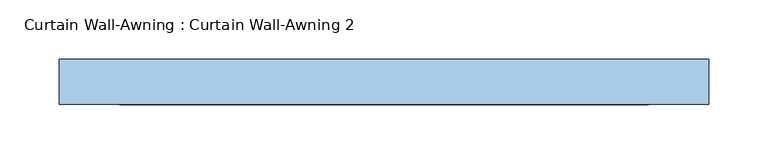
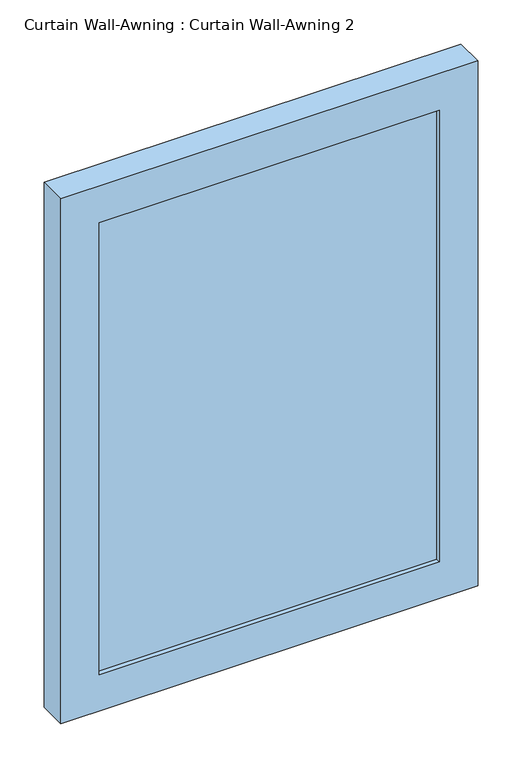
"""IFC4 building model written with IfcOpenShell, lengths in millimetres: window geometry, Curtain Wall-Awning : Curtain Wall-Awning 2."""

from ifc_helpers import new_model, si_unit, frame, origin, place, context, project, spatial, polyline, outline, extrude, source, transform, mapped, element, save


def curtain_wall_awning_curtain_wall_awning_2_2b56300f(model_context):
    return source(origin(), model_context, "Body", "SweptSolid", [
        extrude(outline(polyline([(223.060778, 19.05), (223.060778, 6.35), (-223.060778, 6.35), (-223.060778, 19.05), (223.060778, 19.05)])), frame((0.0, 0.0, 50.8), z_axis=(0.0, 0.0, 1.0), x_axis=(1.0, 0.0, 0.0)), (0.0, 0.0, 1.0), 626.7580049),
        extrude(outline(polyline([(728.3580049, -273.860778), (0.0, -273.860778), (0.0, 273.860778), (728.3580049, 273.860778), (728.3580049, -273.860778)]), holes=[polyline([(677.5580049, -223.060778), (677.5580049, 223.060778), (50.8, 223.060778), (50.8, -223.060778), (677.5580049, -223.060778)])]), frame((0.0, 0.0, 0.0), z_axis=(0.0, 1.0, 0.0), x_axis=(0.0, 0.0, 1.0)), (0.0, 0.0, 1.0), 38.1),
    ])


if __name__ == "__main__":
    model = new_model("IFC4")
    model_context = context("Model", 3, world=origin())
    ifc_project = project(units=[si_unit("LENGTHUNIT", "METRE", prefix="MILLI")], contexts=[model_context])
    site = spatial("IfcSite", under=ifc_project)
    building = spatial("IfcBuilding", under=site)
    placement = place(None, origin())
    curtain_wall_awning_curtain_wall_awning_2_shape = curtain_wall_awning_curtain_wall_awning_2_2b56300f(model_context)
    element("IfcWindow", 1, ObjectType="Curtain Wall-Awning : Curtain Wall-Awning 2", at=placement, inside=building, context=model_context, shape_type="MappedRepresentation", body=[
        mapped(curtain_wall_awning_curtain_wall_awning_2_shape, transform((0.0, 0.0, 0.0), x_axis=(1.0, 0.0, 0.0), y_axis=(0.0, 1.0, 0.0), z_axis=(0.0, 0.0, 1.0))),
    ])
    save(model, "model.ifc")
